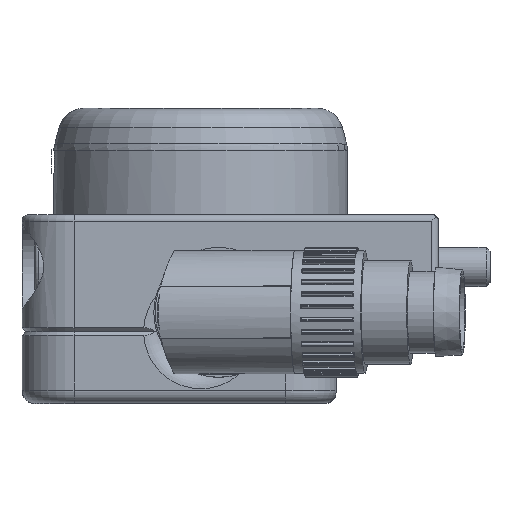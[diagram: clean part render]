
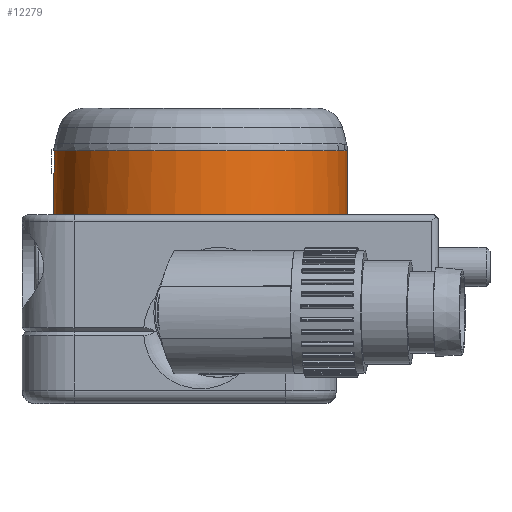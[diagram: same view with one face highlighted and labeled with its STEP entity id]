
A CAD part, top view. The second image highlights one B-rep face of the part: STEP entity #12279.
In plain terms, the highlighted cylindrical face has radius 11.3 mm (diameter 22.6 mm), a full revolution.
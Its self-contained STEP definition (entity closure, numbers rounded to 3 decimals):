
#1375=FACE_OUTER_BOUND('',#2091,.T.);
#2091=EDGE_LOOP('',(#8693,#8694,#8695,#8696,#8697,#8698,#8699,#8700));
#2858=B_SPLINE_CURVE_WITH_KNOTS('',3,(#18503,#18504,#18505,#18506,#18507,
#18508,#18509,#18510,#18511,#18512,#18513,#18514,#18515,#18516,#18517,#18518),
 .UNSPECIFIED.,.F.,.F.,(4,2,2,2,2,2,2,4),(0.151,0.188,
0.226,0.264,0.302,0.339,
0.377,0.397),.UNSPECIFIED.);
#2859=B_SPLINE_CURVE_WITH_KNOTS('',3,(#18520,#18521,#18522,#18523,#18524,
#18525,#18526,#18527,#18528,#18529),.UNSPECIFIED.,.F.,.F.,(4,2,2,2,4),(0.,
0.038,0.075,0.113,0.151),
 .UNSPECIFIED.);
#2860=B_SPLINE_CURVE_WITH_KNOTS('',3,(#18535,#18536,#18537,#18538,#18539,
#18540,#18541,#18542),.UNSPECIFIED.,.F.,.F.,(4,2,2,4),(-0.095,
-0.075,-0.038,0.),.UNSPECIFIED.);
#3010=CIRCLE('',#13094,11.3);
#3011=CIRCLE('',#13096,11.3);
#3012=CIRCLE('',#13097,11.3);
#3738=LINE('',#18809,#4661);
#4661=VECTOR('',#14739,11.3);
#5536=VERTEX_POINT('',#18480);
#5537=VERTEX_POINT('',#18481);
#5538=VERTEX_POINT('',#18502);
#5539=VERTEX_POINT('',#18519);
#5627=VERTEX_POINT('',#18806);
#5628=VERTEX_POINT('',#18810);
#6698=EDGE_CURVE('',#5538,#5536,#2858,.T.);
#6699=EDGE_CURVE('',#5539,#5538,#2859,.T.);
#6703=EDGE_CURVE('',#5537,#5539,#2860,.T.);
#6830=EDGE_CURVE('',#5627,#5627,#3010,.T.);
#6831=EDGE_CURVE('',#5538,#5627,#3738,.T.);
#6832=EDGE_CURVE('',#5628,#5536,#3011,.T.);
#6833=EDGE_CURVE('',#5537,#5628,#3012,.T.);
#8693=ORIENTED_EDGE('',*,*,#6703,.T.);
#8694=ORIENTED_EDGE('',*,*,#6699,.T.);
#8695=ORIENTED_EDGE('',*,*,#6831,.T.);
#8696=ORIENTED_EDGE('',*,*,#6830,.F.);
#8697=ORIENTED_EDGE('',*,*,#6831,.F.);
#8698=ORIENTED_EDGE('',*,*,#6698,.T.);
#8699=ORIENTED_EDGE('',*,*,#6832,.F.);
#8700=ORIENTED_EDGE('',*,*,#6833,.F.);
#11985=CYLINDRICAL_SURFACE('',#13095,11.3);
#12279=ADVANCED_FACE('',(#1375),#11985,.T.);
#13094=AXIS2_PLACEMENT_3D('',#18807,#14735,#14736);
#13095=AXIS2_PLACEMENT_3D('',#18808,#14737,#14738);
#13096=AXIS2_PLACEMENT_3D('',#18811,#14740,#14741);
#13097=AXIS2_PLACEMENT_3D('',#18812,#14742,#14743);
#14735=DIRECTION('center_axis',(0.,-1.,0.));
#14736=DIRECTION('ref_axis',(1.,0.,0.));
#14737=DIRECTION('center_axis',(0.,1.,0.));
#14738=DIRECTION('ref_axis',(1.,0.,0.));
#14739=DIRECTION('',(0.,-1.,0.));
#14740=DIRECTION('center_axis',(0.,1.,0.));
#14741=DIRECTION('ref_axis',(1.,0.,0.));
#14742=DIRECTION('center_axis',(0.,1.,0.));
#14743=DIRECTION('ref_axis',(1.,0.,0.));
#18480=CARTESIAN_POINT('',(-29.537,-13.832,-0.548));
#18481=CARTESIAN_POINT('',(-29.537,-13.832,0.548));
#18502=CARTESIAN_POINT('',(-29.55,-15.668,0.));
#18503=CARTESIAN_POINT('Ctrl Pts',(-29.55,-15.668,0.));
#18504=CARTESIAN_POINT('Ctrl Pts',(-29.55,-15.668,-0.126));
#18505=CARTESIAN_POINT('Ctrl Pts',(-29.548,-15.643,
-0.26));
#18506=CARTESIAN_POINT('Ctrl Pts',(-29.539,-15.541,-0.506));
#18507=CARTESIAN_POINT('Ctrl Pts',(-29.533,-15.464,
-0.618));
#18508=CARTESIAN_POINT('Ctrl Pts',(-29.522,-15.287,-0.796));
#18509=CARTESIAN_POINT('Ctrl Pts',(-29.516,-15.174,
-0.873));
#18510=CARTESIAN_POINT('Ctrl Pts',(-29.508,-14.928,
-0.975));
#18511=CARTESIAN_POINT('Ctrl Pts',(-29.506,-14.794,-1.));
#18512=CARTESIAN_POINT('Ctrl Pts',(-29.506,-14.543,
-1.));
#18513=CARTESIAN_POINT('Ctrl Pts',(-29.508,-14.409,
-0.975));
#18514=CARTESIAN_POINT('Ctrl Pts',(-29.516,-14.162,
-0.873));
#18515=CARTESIAN_POINT('Ctrl Pts',(-29.522,-14.05,-0.796));
#18516=CARTESIAN_POINT('Ctrl Pts',(-29.531,-13.914,
-0.66));
#18517=CARTESIAN_POINT('Ctrl Pts',(-29.534,-13.87,
-0.606));
#18518=CARTESIAN_POINT('Ctrl Pts',(-29.537,-13.832,
-0.548));
#18519=CARTESIAN_POINT('',(-29.506,-14.668,1.));
#18520=CARTESIAN_POINT('Ctrl Pts',(-29.506,-14.668,
1.));
#18521=CARTESIAN_POINT('Ctrl Pts',(-29.506,-14.794,1.));
#18522=CARTESIAN_POINT('Ctrl Pts',(-29.508,-14.928,
0.975));
#18523=CARTESIAN_POINT('Ctrl Pts',(-29.516,-15.174,
0.873));
#18524=CARTESIAN_POINT('Ctrl Pts',(-29.522,-15.287,0.796));
#18525=CARTESIAN_POINT('Ctrl Pts',(-29.533,-15.464,
0.618));
#18526=CARTESIAN_POINT('Ctrl Pts',(-29.539,-15.541,0.506));
#18527=CARTESIAN_POINT('Ctrl Pts',(-29.548,-15.643,
0.26));
#18528=CARTESIAN_POINT('Ctrl Pts',(-29.55,-15.668,0.126));
#18529=CARTESIAN_POINT('Ctrl Pts',(-29.55,-15.668,0.));
#18535=CARTESIAN_POINT('Ctrl Pts',(-29.537,-13.832,
0.548));
#18536=CARTESIAN_POINT('Ctrl Pts',(-29.534,-13.87,
0.606));
#18537=CARTESIAN_POINT('Ctrl Pts',(-29.531,-13.914,
0.66));
#18538=CARTESIAN_POINT('Ctrl Pts',(-29.522,-14.05,0.796));
#18539=CARTESIAN_POINT('Ctrl Pts',(-29.516,-14.162,
0.873));
#18540=CARTESIAN_POINT('Ctrl Pts',(-29.508,-14.409,
0.975));
#18541=CARTESIAN_POINT('Ctrl Pts',(-29.506,-14.543,
1.));
#18542=CARTESIAN_POINT('Ctrl Pts',(-29.506,-14.668,
1.));
#18806=CARTESIAN_POINT('',(-29.55,-18.768,0.));
#18807=CARTESIAN_POINT('Origin',(-18.25,-18.768,0.));
#18808=CARTESIAN_POINT('Origin',(-18.25,-16.3,0.));
#18809=CARTESIAN_POINT('',(-29.55,-16.3,0.));
#18810=CARTESIAN_POINT('',(-18.25,-13.832,11.3));
#18811=CARTESIAN_POINT('Origin',(-18.25,-13.832,0.));
#18812=CARTESIAN_POINT('Origin',(-18.25,-13.832,0.));
